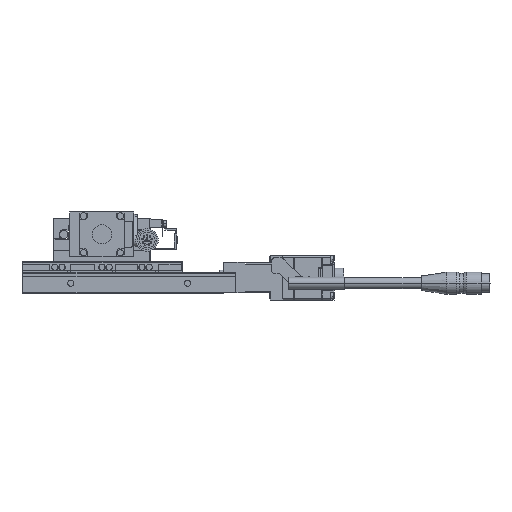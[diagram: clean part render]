
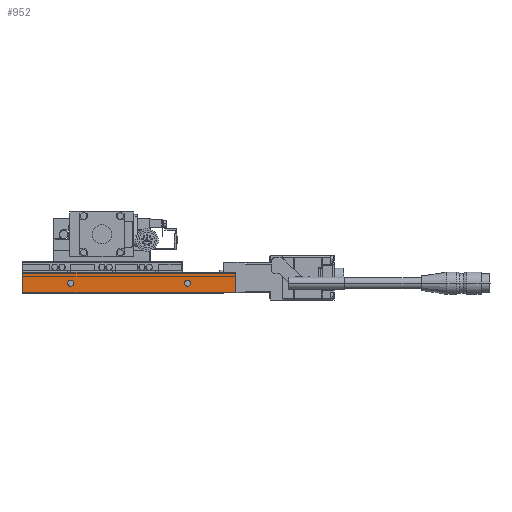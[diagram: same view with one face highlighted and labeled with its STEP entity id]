
A CAD part, front view. The second image highlights one B-rep face of the part: STEP entity #952.
In plain terms, the highlighted planar face has unit normal (0, -1, 0).
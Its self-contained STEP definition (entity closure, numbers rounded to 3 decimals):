
#952=ADVANCED_FACE('',(#2623,#2624,#2625),#2626,.F.);
#2623=FACE_BOUND('',#5467,.T.);
#2624=FACE_BOUND('',#5468,.T.);
#2625=FACE_OUTER_BOUND('',#5469,.T.);
#2626=PLANE('',#5470);
#5467=EDGE_LOOP('',(#10031,#10032));
#5468=EDGE_LOOP('',(#10033,#10034));
#5469=EDGE_LOOP('',(#10035,#10036,#10037,#10038));
#5470=AXIS2_PLACEMENT_3D('',#10039,#10040,#10041);
#10031=ORIENTED_EDGE('',*,*,#18872,.T.);
#10032=ORIENTED_EDGE('',*,*,#18871,.T.);
#10033=ORIENTED_EDGE('',*,*,#18874,.T.);
#10034=ORIENTED_EDGE('',*,*,#18867,.T.);
#10035=ORIENTED_EDGE('',*,*,#18875,.T.);
#10036=ORIENTED_EDGE('',*,*,#18876,.F.);
#10037=ORIENTED_EDGE('',*,*,#18877,.F.);
#10038=ORIENTED_EDGE('',*,*,#18878,.T.);
#10039=CARTESIAN_POINT('',(83.5,-46.8,13.5));
#10040=DIRECTION('',(0.,1.0,0.));
#10041=DIRECTION('',(0.,0.,-1.0));
#18867=EDGE_CURVE('',#22586,#22590,#22592,.T.);
#18871=EDGE_CURVE('',#22594,#22598,#22600,.T.);
#18872=EDGE_CURVE('',#22598,#22594,#22601,.T.);
#18874=EDGE_CURVE('',#22590,#22586,#22603,.T.);
#18875=EDGE_CURVE('',#22604,#22605,#22606,.T.);
#18876=EDGE_CURVE('',#22607,#22605,#22608,.T.);
#18877=EDGE_CURVE('',#22609,#22607,#22610,.T.);
#18878=EDGE_CURVE('',#22609,#22604,#22611,.T.);
#22586=VERTEX_POINT('',#28380);
#22590=VERTEX_POINT('',#28385);
#22592=CIRCLE('',#28388,1.95);
#22594=VERTEX_POINT('',#28390);
#22598=VERTEX_POINT('',#28395);
#22600=CIRCLE('',#28398,1.95);
#22601=CIRCLE('',#28399,1.95);
#22603=CIRCLE('',#28401,1.95);
#22604=VERTEX_POINT('',#28402);
#22605=VERTEX_POINT('',#28403);
#22606=LINE('',#28404,#28405);
#22607=VERTEX_POINT('',#28406);
#22608=LINE('',#28407,#28408);
#22609=VERTEX_POINT('',#28409);
#22610=LINE('',#28410,#28411);
#22611=LINE('',#28412,#28413);
#28380=CARTESIAN_POINT('',(55.45,-46.8,6.5));
#28385=CARTESIAN_POINT('',(51.55,-46.8,6.5));
#28388=AXIS2_PLACEMENT_3D('',#35553,#35554,#35555);
#28390=CARTESIAN_POINT('',(-17.55,-46.8,6.5));
#28395=CARTESIAN_POINT('',(-21.45,-46.8,6.5));
#28398=AXIS2_PLACEMENT_3D('',#35561,#35562,#35563);
#28399=AXIS2_PLACEMENT_3D('',#35564,#35565,#35566);
#28401=AXIS2_PLACEMENT_3D('',#35570,#35571,#35572);
#28402=CARTESIAN_POINT('',(-49.5,-46.8,13.5));
#28403=CARTESIAN_POINT('',(-49.5,-46.8,0.5));
#28404=CARTESIAN_POINT('',(-49.5,-46.8,13.5));
#28405=VECTOR('',#35573,1000.0);
#28406=CARTESIAN_POINT('',(83.5,-46.8,0.5));
#28407=CARTESIAN_POINT('',(83.5,-46.8,0.5));
#28408=VECTOR('',#35574,1000.0);
#28409=CARTESIAN_POINT('',(83.5,-46.8,13.5));
#28410=CARTESIAN_POINT('',(83.5,-46.8,13.5));
#28411=VECTOR('',#35575,1000.0);
#28412=CARTESIAN_POINT('',(83.5,-46.8,13.5));
#28413=VECTOR('',#35576,1000.0);
#35553=CARTESIAN_POINT('',(53.5,-46.8,6.5));
#35554=DIRECTION('',(0.,1.0,0.));
#35555=DIRECTION('',(-1.0,0.,0.));
#35561=CARTESIAN_POINT('',(-19.5,-46.8,6.5));
#35562=DIRECTION('',(0.,1.0,0.));
#35563=DIRECTION('',(-1.0,0.,0.));
#35564=CARTESIAN_POINT('',(-19.5,-46.8,6.5));
#35565=DIRECTION('',(0.,1.0,0.));
#35566=DIRECTION('',(-1.0,0.,0.));
#35570=CARTESIAN_POINT('',(53.5,-46.8,6.5));
#35571=DIRECTION('',(0.,1.0,0.));
#35572=DIRECTION('',(-1.0,0.,0.));
#35573=DIRECTION('',(0.,0.,-1.0));
#35574=DIRECTION('',(-1.0,0.,0.));
#35575=DIRECTION('',(0.,0.,-1.0));
#35576=DIRECTION('',(-1.0,0.,0.));
